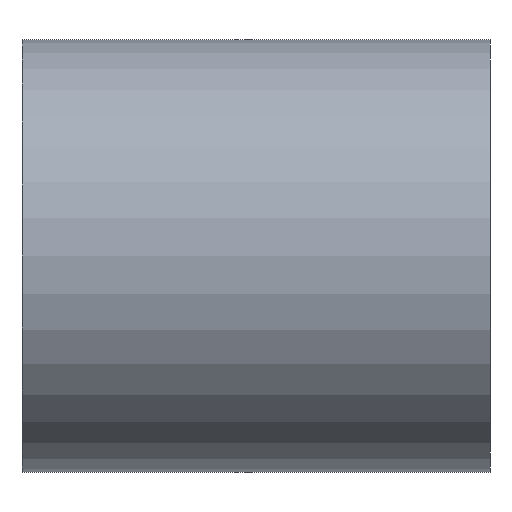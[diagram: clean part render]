
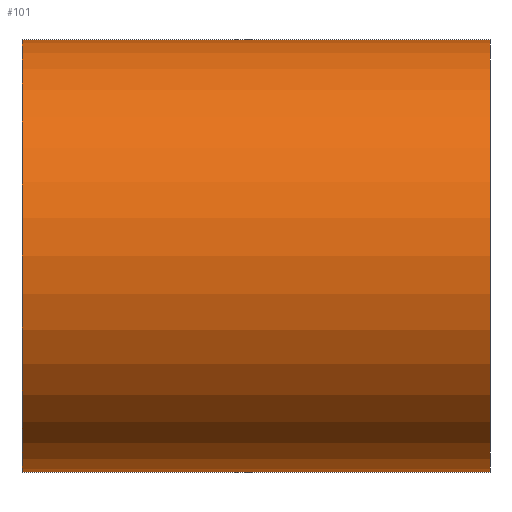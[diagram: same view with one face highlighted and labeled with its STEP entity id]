
A CAD part, front view. The second image highlights one B-rep face of the part: STEP entity #101.
In plain terms, the highlighted cylindrical face has radius 37 mm (diameter 74 mm), a full revolution.
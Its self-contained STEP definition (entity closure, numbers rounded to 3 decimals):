
#25=FACE_BOUND('',#48,.T.);
#33=FACE_OUTER_BOUND('',#47,.T.);
#47=EDGE_LOOP('',(#87));
#48=EDGE_LOOP('',(#88));
#57=CIRCLE('',#117,37.);
#58=CIRCLE('',#119,37.);
#65=VERTEX_POINT('',#174);
#66=VERTEX_POINT('',#177);
#73=EDGE_CURVE('',#65,#65,#57,.T.);
#74=EDGE_CURVE('',#66,#66,#58,.T.);
#87=ORIENTED_EDGE('',*,*,#73,.F.);
#88=ORIENTED_EDGE('',*,*,#74,.F.);
#94=CYLINDRICAL_SURFACE('',#118,37.);
#101=ADVANCED_FACE('',(#33,#25),#94,.T.);
#117=AXIS2_PLACEMENT_3D('',#175,#147,#148);
#118=AXIS2_PLACEMENT_3D('',#176,#149,#150);
#119=AXIS2_PLACEMENT_3D('',#178,#151,#152);
#147=DIRECTION('center_axis',(-1.,0.,0.));
#148=DIRECTION('ref_axis',(0.,-1.,0.));
#149=DIRECTION('center_axis',(1.,0.,0.));
#150=DIRECTION('ref_axis',(0.,-1.,0.));
#151=DIRECTION('center_axis',(1.,0.,0.));
#152=DIRECTION('ref_axis',(0.,-1.,0.));
#174=CARTESIAN_POINT('',(-40.,37.,0.));
#175=CARTESIAN_POINT('Origin',(-40.,0.,0.));
#176=CARTESIAN_POINT('Origin',(0.,0.,0.));
#177=CARTESIAN_POINT('',(40.,37.,0.));
#178=CARTESIAN_POINT('Origin',(40.,0.,0.));
